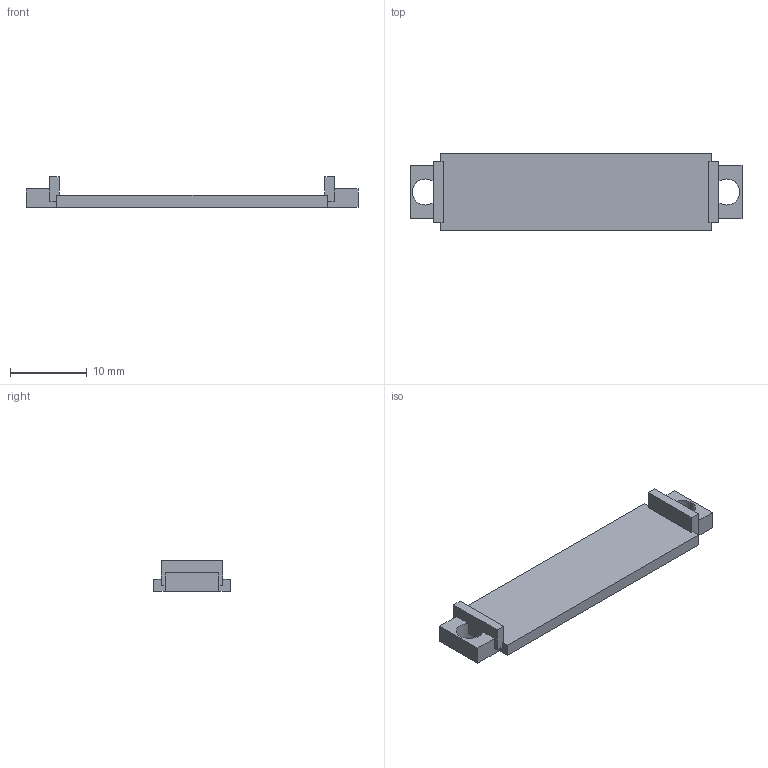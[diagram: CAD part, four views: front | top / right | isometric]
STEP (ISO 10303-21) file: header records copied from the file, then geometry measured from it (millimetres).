
FILE_DESCRIPTION(('FreeCAD Model'),'2;1');
FILE_NAME('Open CASCADE Shape Model','2026-11-20T08:25:38',('FreeCAD'),( 'FreeCAD'),'Open CASCADE STEP processor 7.8','FreeCAD','Unknown');
FILE_SCHEMA(('AUTOMOTIVE_DESIGN { 1 0 10303 214 1 1 1 1 }'));
Length unit declared in the file: millimetre
Products named in the file (1): Open CASCADE STEP translator 7.8 71
Bounding box: 43.2 x 10 x 4 mm (x, y, z)
Volume: 694.9 mm3; surface area: 1106.2 mm2
Topology: 1 solids, 1 shells, 34 faces, 102 edges, 68 vertices
Faces by surface type: plane 32, cylinder 2
Full cylindrical faces by diameter (mm): 3.4 x2
Entity records: 1152 total; most frequent: CARTESIAN_POINT 205, ORIENTED_EDGE 204, DIRECTION 180, EDGE_CURVE 102, LINE 94, VECTOR 94, VERTEX_POINT 68, AXIS2_PLACEMENT_3D 43
